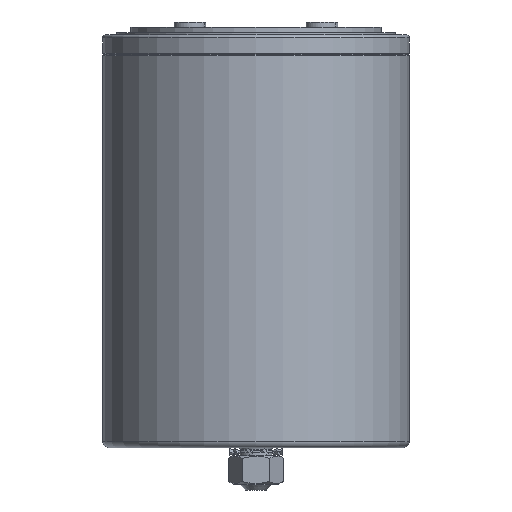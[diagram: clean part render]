
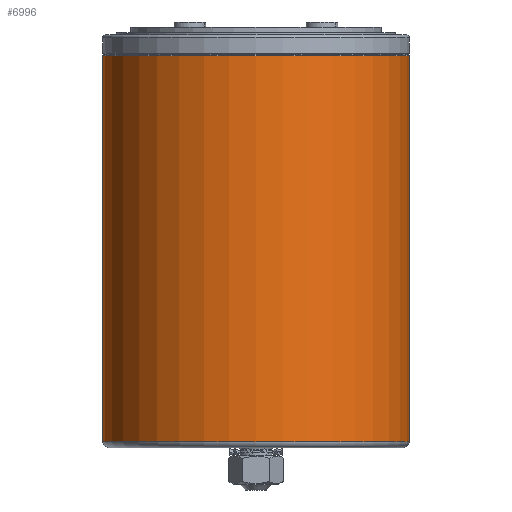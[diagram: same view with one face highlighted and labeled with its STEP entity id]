
A CAD part, front view. The second image highlights one B-rep face of the part: STEP entity #6996.
In plain terms, the highlighted cylindrical face has radius 58 mm (diameter 116 mm), a partial arc.
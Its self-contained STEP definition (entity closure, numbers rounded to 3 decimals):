
#261 = DIRECTION ( 'NONE',  ( 0., 0., -1. ) ) ;
#748 = EDGE_CURVE ( 'NONE', #7107, #5097, #7977, .T. ) ;
#766 = CYLINDRICAL_SURFACE ( 'NONE', #2202, 58. ) ;
#801 = ORIENTED_EDGE ( 'NONE', *, *, #748, .T. ) ;
#1091 = LINE ( 'NONE', #2377, #7480 ) ;
#1281 = CARTESIAN_POINT ( 'NONE',  ( -15.5, 0., 127.217 ) ) ;
#1295 = CARTESIAN_POINT ( 'NONE',  ( -15.5, 0., 151.967 ) ) ;
#1467 = CARTESIAN_POINT ( 'NONE',  ( 42.5, 0., 127.217 ) ) ;
#1509 = DIRECTION ( 'NONE',  ( 0., 0., -1. ) ) ;
#1846 = FACE_OUTER_BOUND ( 'NONE', #5070, .T. ) ;
#1892 = VERTEX_POINT ( 'NONE', #3089 ) ;
#2202 = AXIS2_PLACEMENT_3D ( 'NONE', #1295, #7501, #6022 ) ;
#2307 = AXIS2_PLACEMENT_3D ( 'NONE', #1281, #6709, #5902 ) ;
#2377 = CARTESIAN_POINT ( 'NONE',  ( -73.5, 0., 151.967 ) ) ;
#2443 = ORIENTED_EDGE ( 'NONE', *, *, #6552, .F. ) ;
#3089 = CARTESIAN_POINT ( 'NONE',  ( 42.5, 0., -18.854 ) ) ;
#3527 = CIRCLE ( 'NONE', #7125, 58. ) ;
#4326 = CARTESIAN_POINT ( 'NONE',  ( -15.5, 0., -18.854 ) ) ;
#4555 = ORIENTED_EDGE ( 'NONE', *, *, #6384, .T. ) ;
#4693 = CARTESIAN_POINT ( 'NONE',  ( -73.5, 0., -18.854 ) ) ;
#4705 = LINE ( 'NONE', #6153, #6614 ) ;
#5070 = EDGE_LOOP ( 'NONE', ( #2443, #801, #4555, #8294 ) ) ;
#5097 = VERTEX_POINT ( 'NONE', #6290 ) ;
#5902 = DIRECTION ( 'NONE',  ( -1., 0., 0. ) ) ;
#5911 = VERTEX_POINT ( 'NONE', #4693 ) ;
#6022 = DIRECTION ( 'NONE',  ( -1., 0., 0. ) ) ;
#6153 = CARTESIAN_POINT ( 'NONE',  ( 42.5, 0., 151.967 ) ) ;
#6290 = CARTESIAN_POINT ( 'NONE',  ( -73.5, 0., 127.217 ) ) ;
#6384 = EDGE_CURVE ( 'NONE', #5097, #5911, #1091, .T. ) ;
#6516 = DIRECTION ( 'NONE',  ( -1., 0., 0. ) ) ;
#6552 = EDGE_CURVE ( 'NONE', #7107, #1892, #4705, .T. ) ;
#6614 = VECTOR ( 'NONE', #1509, 1000. ) ;
#6709 = DIRECTION ( 'NONE',  ( 0., 0., -1. ) ) ;
#6996 = ADVANCED_FACE ( 'NONE', ( #1846 ), #766, .T. ) ;
#7085 = DIRECTION ( 'NONE',  ( 0., 0., -1. ) ) ;
#7107 = VERTEX_POINT ( 'NONE', #1467 ) ;
#7125 = AXIS2_PLACEMENT_3D ( 'NONE', #4326, #261, #6516 ) ;
#7480 = VECTOR ( 'NONE', #7085, 1000. ) ;
#7501 = DIRECTION ( 'NONE',  ( 0., 0., -1. ) ) ;
#7977 = CIRCLE ( 'NONE', #2307, 58. ) ;
#8208 = EDGE_CURVE ( 'NONE', #1892, #5911, #3527, .T. ) ;
#8294 = ORIENTED_EDGE ( 'NONE', *, *, #8208, .F. ) ;
